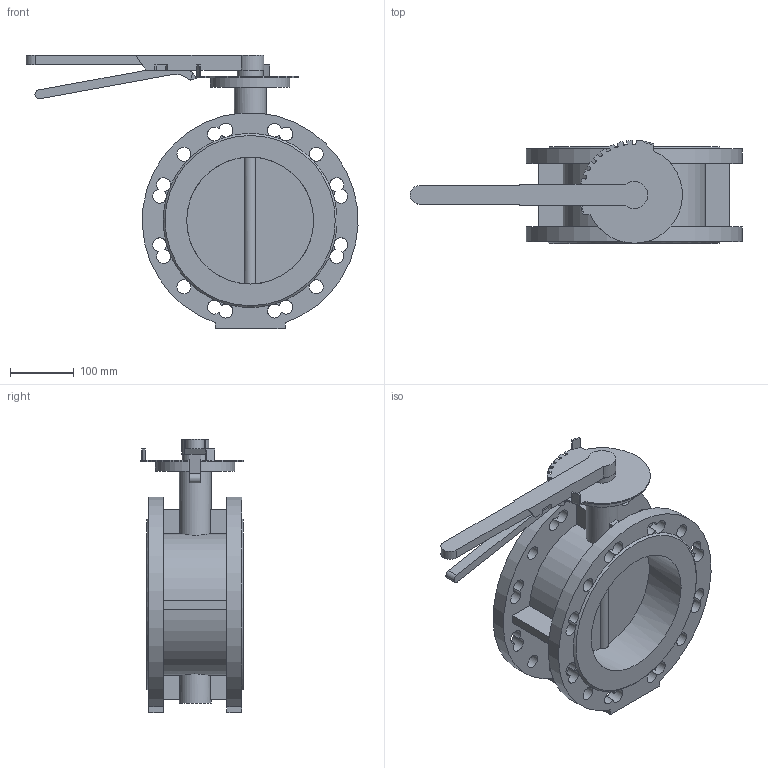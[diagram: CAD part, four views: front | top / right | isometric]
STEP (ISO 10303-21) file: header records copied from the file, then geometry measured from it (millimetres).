
FILE_DESCRIPTION(('STEP AP203'), '1');
FILE_NAME('Çàòâîð 021F.Y DN200 +ðóêîÿòêà', '', ('UNSPECIFIED'), ('UNSPECIFIED'), 'ASCON STEP Converter 1.6', 'ASCON Math Kernel', '');
FILE_SCHEMA(('CONFIG_CONTROL_DESIGN'));
Length unit declared in the file: millimetre
Bounding box: 522.8 x 161.95 x 430 mm (x, y, z)
Volume: 4653597 mm3; surface area: 660708.8 mm2
Topology: 1 solids, 1 shells, 233 faces, 702 edges, 458 vertices
Faces by surface type: plane 126, cylinder 105, cone 2
Full cylindrical faces by diameter (mm): 12 x4, 22 x8, 41 x1, 50 x2, 125 x1, 200 x2
Entity records: 11917 total; most frequent: CARTESIAN_POINT 3484, DIRECTION 1424, ORIENTED_EDGE 1364, EDGE_CURVE 682, AXIS2_PLACEMENT_3D 552, VERTEX_POINT 458, LINE 320, VECTOR 320
